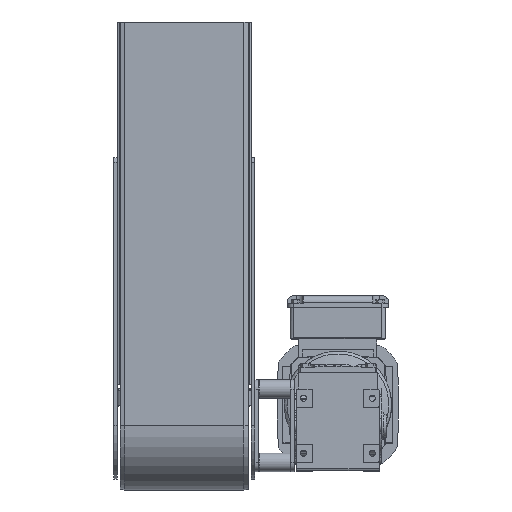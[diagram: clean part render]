
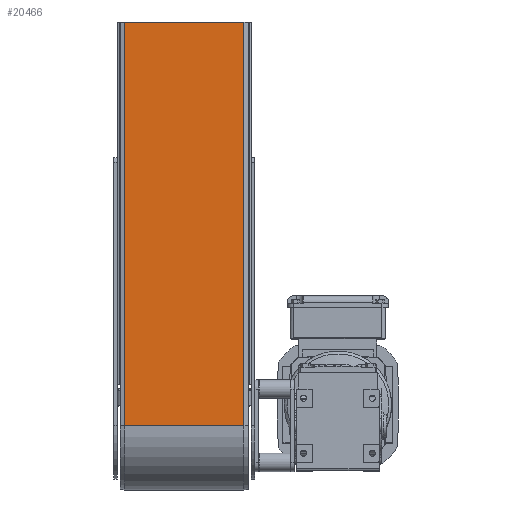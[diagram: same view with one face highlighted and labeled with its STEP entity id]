
A CAD part, top view. The second image highlights one B-rep face of the part: STEP entity #20466.
In plain terms, the highlighted planar face has unit normal (0, 0, 1).
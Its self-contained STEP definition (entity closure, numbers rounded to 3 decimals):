
#1197=FACE_OUTER_BOUND('',#2389,.T.);
#2389=EDGE_LOOP('',(#14503,#14504,#14505,#14506));
#4768=LINE('',#31327,#6641);
#4792=LINE('',#31383,#6665);
#4795=LINE('',#31389,#6668);
#4796=LINE('',#31390,#6669);
#6641=VECTOR('',#25035,10.);
#6665=VECTOR('',#25079,10.);
#6668=VECTOR('',#25084,10.);
#6669=VECTOR('',#25085,10.);
#8534=VERTEX_POINT('',#31319);
#8536=VERTEX_POINT('',#31325);
#8558=VERTEX_POINT('',#31382);
#8560=VERTEX_POINT('',#31388);
#10778=EDGE_CURVE('',#8534,#8536,#4768,.T.);
#10805=EDGE_CURVE('',#8558,#8534,#4792,.T.);
#10808=EDGE_CURVE('',#8560,#8536,#4795,.T.);
#10809=EDGE_CURVE('',#8558,#8560,#4796,.T.);
#14503=ORIENTED_EDGE('',*,*,#10808,.F.);
#14504=ORIENTED_EDGE('',*,*,#10809,.F.);
#14505=ORIENTED_EDGE('',*,*,#10805,.T.);
#14506=ORIENTED_EDGE('',*,*,#10778,.T.);
#19406=PLANE('',#21994);
#20466=ADVANCED_FACE('',(#1197),#19406,.T.);
#21994=AXIS2_PLACEMENT_3D('',#31387,#25082,#25083);
#25035=DIRECTION('',(1.,0.,0.));
#25079=DIRECTION('',(0.,-1.,0.));
#25082=DIRECTION('center_axis',(0.,0.,
1.));
#25083=DIRECTION('ref_axis',(0.,-1.,0.));
#25084=DIRECTION('',(0.,-1.,0.));
#25085=DIRECTION('',(1.,0.,0.));
#31319=CARTESIAN_POINT('',(-411.441,-717.828,88.256));
#31325=CARTESIAN_POINT('',(-281.441,-717.828,88.256));
#31327=CARTESIAN_POINT('',(-281.441,-717.828,88.256));
#31382=CARTESIAN_POINT('',(-411.441,-277.828,88.256));
#31383=CARTESIAN_POINT('',(-411.441,-277.828,88.256));
#31387=CARTESIAN_POINT('Origin',(-411.441,-277.828,88.256));
#31388=CARTESIAN_POINT('',(-281.441,-277.828,88.256));
#31389=CARTESIAN_POINT('',(-281.441,-277.828,88.256));
#31390=CARTESIAN_POINT('',(-411.441,-277.828,88.256));
